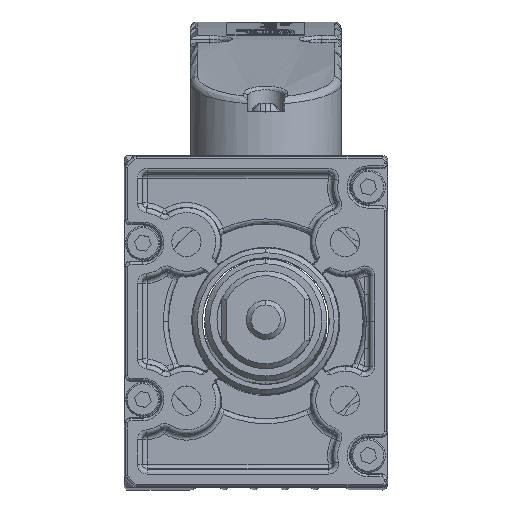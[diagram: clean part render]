
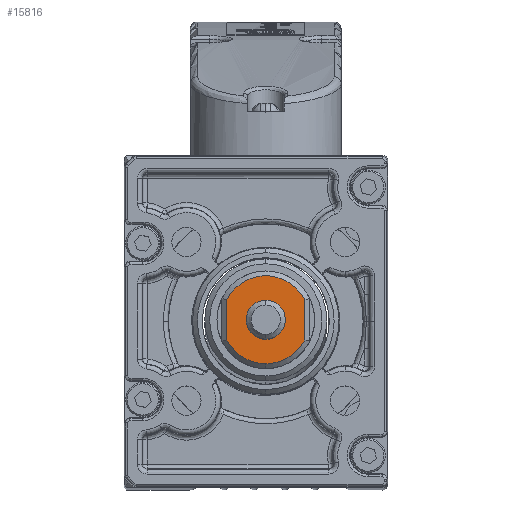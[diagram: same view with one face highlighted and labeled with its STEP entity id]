
A CAD part, top view. The second image highlights one B-rep face of the part: STEP entity #15816.
In plain terms, the highlighted planar face has unit normal (0, 0, 1) as drawn and (0, 0, -1) by its records, which use the part's own axes.
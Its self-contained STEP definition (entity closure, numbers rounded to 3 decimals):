
#1810 = CIRCLE ( 'NONE', #1820, 9. ) ;
#1820 = AXIS2_PLACEMENT_3D ( 'NONE', #18694, #18695, #18696 ) ;
#1893 = CIRCLE ( 'NONE', #1900, 4. ) ;
#1900 = AXIS2_PLACEMENT_3D ( 'NONE', #18746, #18747, #18748 ) ;
#2183 = CIRCLE ( 'NONE', #2190, 9. ) ;
#2186 = VECTOR ( 'NONE', #18901, 1000. ) ;
#2190 = AXIS2_PLACEMENT_3D ( 'NONE', #18898, #18899, #18900 ) ;
#2193 = CIRCLE ( 'NONE', #2200, 9. ) ;
#2197 = VECTOR ( 'NONE', #18905, 1000. ) ;
#2200 = AXIS2_PLACEMENT_3D ( 'NONE', #18902, #18903, #18904 ) ;
#2203 = CIRCLE ( 'NONE', #2210, 4. ) ;
#2210 = AXIS2_PLACEMENT_3D ( 'NONE', #18906, #18907, #18908 ) ;
#6515 = EDGE_LOOP ( 'NONE', ( #42517, #42521, #42525, #42529, #42531 ) ) ;
#6525 = EDGE_LOOP ( 'NONE', ( #42535, #42539 ) ) ;
#15816 = ADVANCED_FACE ( 'NONE', ( #47209, #47210 ), #47211, .T. ) ;
#18694 = CARTESIAN_POINT ( 'NONE',  ( 0., 0., -648. ) ) ;
#18695 = DIRECTION ( 'NONE',  ( 0., 0., -1. ) ) ;
#18696 = DIRECTION ( 'NONE',  ( -1., 0., 0. ) ) ;
#18746 = CARTESIAN_POINT ( 'NONE',  ( 0., 0., -648. ) ) ;
#18747 = DIRECTION ( 'NONE',  ( 0., 0., 1. ) ) ;
#18748 = DIRECTION ( 'NONE',  ( 1., 0., 0. ) ) ;
#18889 = LINE ( 'NONE', #18890, #2186 ) ;
#18890 = CARTESIAN_POINT ( 'NONE',  ( 4.359, 8., -648. ) ) ;
#18896 = LINE ( 'NONE', #18897, #2197 ) ;
#18897 = CARTESIAN_POINT ( 'NONE',  ( -4.359, -8., -648. ) ) ;
#18898 = CARTESIAN_POINT ( 'NONE',  ( 0., 0., -648. ) ) ;
#18899 = DIRECTION ( 'NONE',  ( 0., 0., -1. ) ) ;
#18900 = DIRECTION ( 'NONE',  ( -1., 0., 0. ) ) ;
#18901 = DIRECTION ( 'NONE',  ( 1., 0., 0. ) ) ;
#18902 = CARTESIAN_POINT ( 'NONE',  ( 0., 0., -648. ) ) ;
#18903 = DIRECTION ( 'NONE',  ( 0., 0., -1. ) ) ;
#18904 = DIRECTION ( 'NONE',  ( -1., 0., 0. ) ) ;
#18905 = DIRECTION ( 'NONE',  ( -1., 0., 0. ) ) ;
#18906 = CARTESIAN_POINT ( 'NONE',  ( 0., 0., -648. ) ) ;
#18907 = DIRECTION ( 'NONE',  ( 0., 0., 1. ) ) ;
#18908 = DIRECTION ( 'NONE',  ( 1., 0., 0. ) ) ;
#32509 = VERTEX_POINT ( 'NONE', #44416 ) ;
#32515 = VERTEX_POINT ( 'NONE', #44422 ) ;
#32543 = VERTEX_POINT ( 'NONE', #44448 ) ;
#32548 = VERTEX_POINT ( 'NONE', #44454 ) ;
#32574 = VERTEX_POINT ( 'NONE', #44498 ) ;
#32576 = VERTEX_POINT ( 'NONE', #44502 ) ;
#32578 = VERTEX_POINT ( 'NONE', #44506 ) ;
#38655 = AXIS2_PLACEMENT_3D ( 'NONE', #47205, #47213, #47214 ) ;
#42517 = ORIENTED_EDGE ( 'NONE', *, *, #55846, .T. ) ;
#42521 = ORIENTED_EDGE ( 'NONE', *, *, #55847, .T. ) ;
#42525 = ORIENTED_EDGE ( 'NONE', *, *, #55848, .T. ) ;
#42529 = ORIENTED_EDGE ( 'NONE', *, *, #55779, .T. ) ;
#42531 = ORIENTED_EDGE ( 'NONE', *, *, #55849, .T. ) ;
#42535 = ORIENTED_EDGE ( 'NONE', *, *, #55796, .T. ) ;
#42539 = ORIENTED_EDGE ( 'NONE', *, *, #55850, .T. ) ;
#44416 = CARTESIAN_POINT ( 'NONE',  ( 9., 0., -648. ) ) ;
#44422 = CARTESIAN_POINT ( 'NONE',  ( 4.123, -8., -648. ) ) ;
#44448 = CARTESIAN_POINT ( 'NONE',  ( -4., 0., -648. ) ) ;
#44454 = CARTESIAN_POINT ( 'NONE',  ( 4., 0., -648. ) ) ;
#44498 = CARTESIAN_POINT ( 'NONE',  ( -4.123, 8., -648. ) ) ;
#44502 = CARTESIAN_POINT ( 'NONE',  ( -4.123, -8., -648. ) ) ;
#44506 = CARTESIAN_POINT ( 'NONE',  ( 4.123, 8., -648. ) ) ;
#47205 = CARTESIAN_POINT ( 'NONE',  ( 10., 0., -648. ) ) ;
#47209 = FACE_OUTER_BOUND ( 'NONE', #6515, .T. ) ;
#47210 = FACE_BOUND ( 'NONE', #6525, .T. ) ;
#47211 = PLANE ( 'NONE',  #38655 ) ;
#47213 = DIRECTION ( 'NONE',  ( 0., 0., -1. ) ) ;
#47214 = DIRECTION ( 'NONE',  ( -1., 0., 0. ) ) ;
#55779 = EDGE_CURVE ( 'NONE', #32509, #32515, #1810, .T. ) ;
#55796 = EDGE_CURVE ( 'NONE', #32548, #32543, #1893, .T. ) ;
#55846 = EDGE_CURVE ( 'NONE', #32576, #32574, #2183, .T. ) ;
#55847 = EDGE_CURVE ( 'NONE', #32574, #32578, #18889, .T. ) ;
#55848 = EDGE_CURVE ( 'NONE', #32578, #32509, #2193, .T. ) ;
#55849 = EDGE_CURVE ( 'NONE', #32515, #32576, #18896, .T. ) ;
#55850 = EDGE_CURVE ( 'NONE', #32543, #32548, #2203, .T. ) ;
